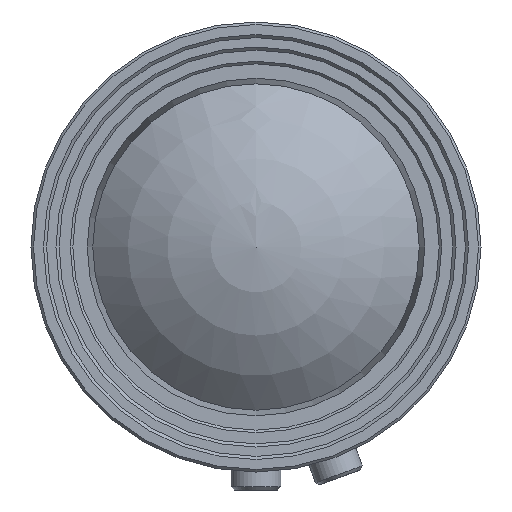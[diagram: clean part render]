
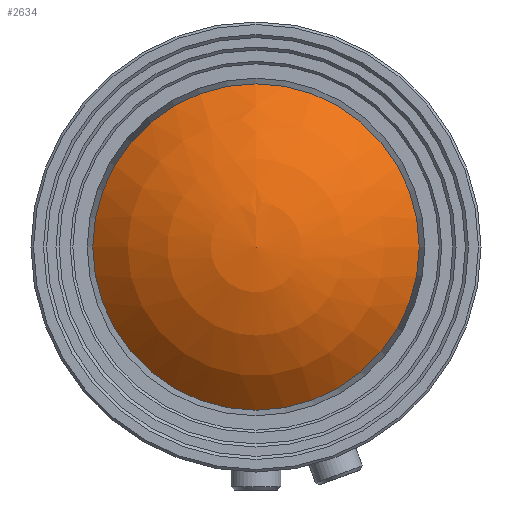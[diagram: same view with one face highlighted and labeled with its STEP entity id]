
A CAD part, left-side view. The second image highlights one B-rep face of the part: STEP entity #2634.
In plain terms, the highlighted spherical face has radius 18.114 mm.
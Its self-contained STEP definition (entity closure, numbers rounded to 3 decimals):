
#31=SPHERICAL_SURFACE('',#2814,18.114);
#173=ORIENTED_EDGE('',*,*,#460,.F.);
#460=EDGE_CURVE('',#611,#611,#760,.T.);
#611=VERTEX_POINT('',#3765);
#760=CIRCLE('',#2815,13.054);
#924=EDGE_LOOP('',(#173));
#1226=FACE_BOUND('',#924,.T.);
#2634=ADVANCED_FACE('',(#1226),#31,.T.);
#2814=AXIS2_PLACEMENT_3D('',#3763,#3152,#3153);
#2815=AXIS2_PLACEMENT_3D('',#3764,#3154,#3155);
#3152=DIRECTION('',(1.,0.,0.));
#3153=DIRECTION('',(0.,0.,1.));
#3154=DIRECTION('',(1.,0.,0.));
#3155=DIRECTION('',(0.,0.,-1.));
#3763=CARTESIAN_POINT('',(-56.493,0.,0.));
#3764=CARTESIAN_POINT('',(-69.051,0.,0.));
#3765=CARTESIAN_POINT('',(-69.051,0.,-13.054));
